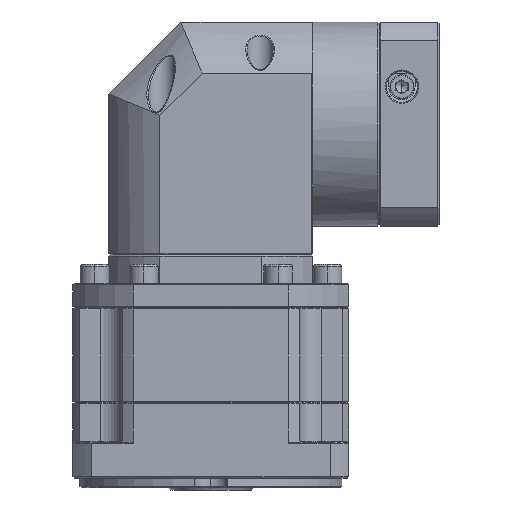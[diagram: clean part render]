
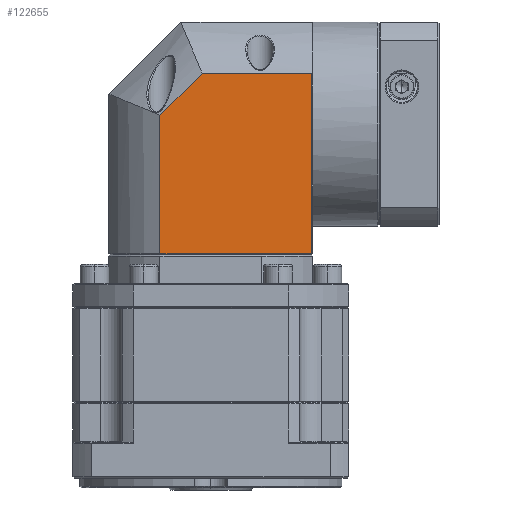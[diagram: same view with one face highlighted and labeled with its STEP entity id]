
A CAD part, front view. The second image highlights one B-rep face of the part: STEP entity #122655.
In plain terms, the highlighted planar face has unit normal (0, -1, 0).
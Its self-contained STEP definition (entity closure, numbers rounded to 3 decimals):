
#8734 = EDGE_CURVE ( 'NONE', #96489, #76660, #20210, .T. ) ;
#11717 = DIRECTION ( 'NONE',  ( 0., 0., -1. ) ) ;
#12917 = VERTEX_POINT ( 'NONE', #91624 ) ;
#13683 = VECTOR ( 'NONE', #44431, 1000. ) ;
#18044 = DIRECTION ( 'NONE',  ( 0., 0., 1. ) ) ;
#20210 = LINE ( 'NONE', #74270, #51097 ) ;
#20342 = EDGE_CURVE ( 'NONE', #58854, #12917, #25924, .T. ) ;
#22790 = ORIENTED_EDGE ( 'NONE', *, *, #142055, .F. ) ;
#25753 = VERTEX_POINT ( 'NONE', #61445 ) ;
#25924 = LINE ( 'NONE', #73078, #134291 ) ;
#30972 = LINE ( 'NONE', #98237, #13683 ) ;
#33066 = EDGE_CURVE ( 'NONE', #25753, #12917, #80169, .T. ) ;
#35766 = DIRECTION ( 'NONE',  ( 0., 1., 0. ) ) ;
#41366 = DIRECTION ( 'NONE',  ( 1., 0., 0. ) ) ;
#41807 = AXIS2_PLACEMENT_3D ( 'NONE', #101502, #35766, #79881 ) ;
#41842 = FACE_OUTER_BOUND ( 'NONE', #107661, .T. ) ;
#42553 = VECTOR ( 'NONE', #18044, 1000. ) ;
#43230 = CARTESIAN_POINT ( 'NONE',  ( 41.187, 39.503, 18.145 ) ) ;
#44431 = DIRECTION ( 'NONE',  ( 1., 0., 0. ) ) ;
#47149 = EDGE_CURVE ( 'NONE', #58854, #96489, #104462, .T. ) ;
#51097 = VECTOR ( 'NONE', #129573, 1000. ) ;
#53357 = ORIENTED_EDGE ( 'NONE', *, *, #33066, .F. ) ;
#53639 = ORIENTED_EDGE ( 'NONE', *, *, #47149, .F. ) ;
#58854 = VERTEX_POINT ( 'NONE', #90152 ) ;
#61206 = PLANE ( 'NONE',  #41807 ) ;
#61445 = CARTESIAN_POINT ( 'NONE',  ( 86.87, 39.503, 18.145 ) ) ;
#73078 = CARTESIAN_POINT ( 'NONE',  ( 87.37, 39.503, -57.068 ) ) ;
#73289 = VECTOR ( 'NONE', #11717, 1000. ) ;
#74270 = CARTESIAN_POINT ( 'NONE',  ( 23.657, 39.503, 0.615 ) ) ;
#76660 = VERTEX_POINT ( 'NONE', #43230 ) ;
#79881 = DIRECTION ( 'NONE',  ( -1., 0., 0. ) ) ;
#80169 = LINE ( 'NONE', #99947, #73289 ) ;
#90152 = CARTESIAN_POINT ( 'NONE',  ( 23.657, 39.503, -57.068 ) ) ;
#91624 = CARTESIAN_POINT ( 'NONE',  ( 86.87, 39.503, -57.068 ) ) ;
#92995 = CARTESIAN_POINT ( 'NONE',  ( 23.657, 39.503, 0.615 ) ) ;
#94326 = CARTESIAN_POINT ( 'NONE',  ( 23.657, 39.503, 39.432 ) ) ;
#96489 = VERTEX_POINT ( 'NONE', #92995 ) ;
#98237 = CARTESIAN_POINT ( 'NONE',  ( 87.37, 39.503, 18.145 ) ) ;
#99947 = CARTESIAN_POINT ( 'NONE',  ( 86.87, 39.503, 39.432 ) ) ;
#101502 = CARTESIAN_POINT ( 'NONE',  ( 87.37, 39.503, 39.432 ) ) ;
#104462 = LINE ( 'NONE', #94326, #42553 ) ;
#107661 = EDGE_LOOP ( 'NONE', ( #130691, #53357, #22790, #114088, #53639 ) ) ;
#114088 = ORIENTED_EDGE ( 'NONE', *, *, #8734, .F. ) ;
#122655 = ADVANCED_FACE ( 'NONE', ( #41842 ), #61206, .F. ) ;
#129573 = DIRECTION ( 'NONE',  ( 0.707, 0., 0.707 ) ) ;
#130691 = ORIENTED_EDGE ( 'NONE', *, *, #20342, .T. ) ;
#134291 = VECTOR ( 'NONE', #41366, 1000. ) ;
#142055 = EDGE_CURVE ( 'NONE', #76660, #25753, #30972, .T. ) ;
